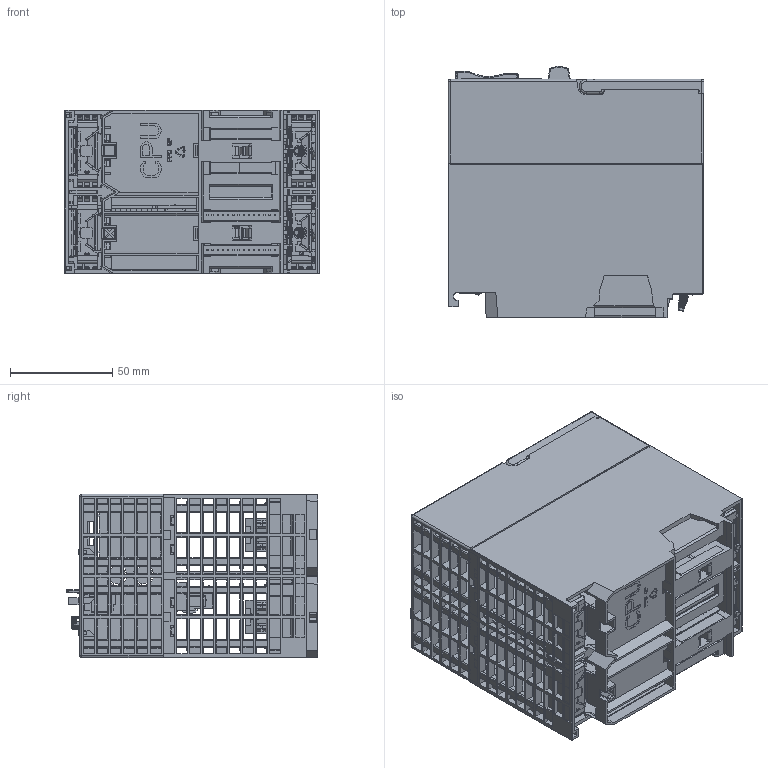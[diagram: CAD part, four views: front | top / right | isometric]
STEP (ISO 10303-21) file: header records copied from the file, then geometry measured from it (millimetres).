
FILE_DESCRIPTION((''),'2;1');
FILE_NAME('315-4PN43','2024-03-15T12:48:28',('TReuther'),(''),'CREO PARAMETRIC BY PTC INC, 2020454','CREO PARAMETRIC BY PTC INC, 2020454','');
FILE_SCHEMA(('CONFIG_CONTROL_DESIGN','SHAPE_APPEARANCE_LAYERS_GROUPS'));
Products named in the file (1): 315-4PN43
Bounding box: 125.2 x 123.09 x 80.1 mm (x, y, z)
Surface area: 187886.8 mm2 (no closed solid volume)
Topology: 0 solids, 231 shells, 3021 faces, 16103 edges, 12651 vertices
Faces by surface type: plane 2354, cylinder 528, bspline 64, cone 38, torus 24, sphere 12, extrusion 1
Entity records: 173768 total; most frequent: CARTESIAN_POINT 44886, ORIENTED_EDGE 22792, DIRECTION 22348, EDGE_CURVE 16095, VECTOR 13300, LINE 13299, VERTEX_POINT 12649, AXIS2_PLACEMENT_3D 4524
